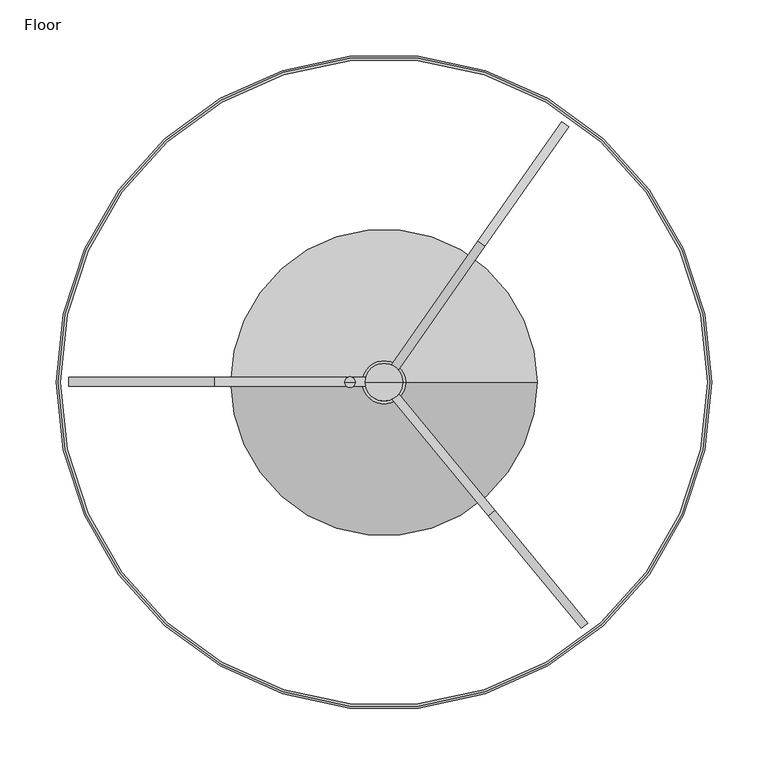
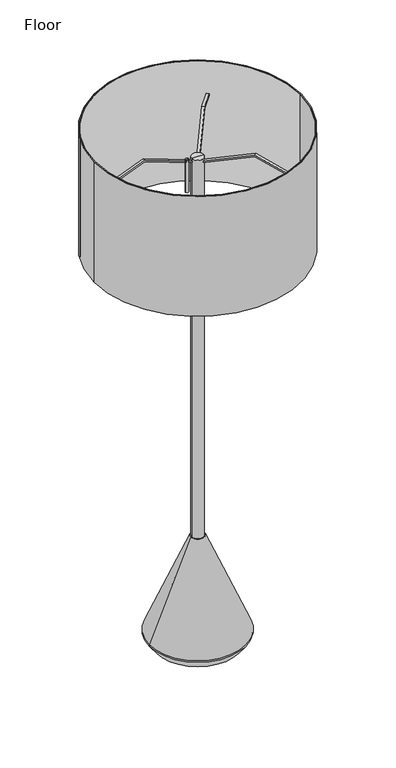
"""IFC4 building model written with IfcOpenShell, lengths in millimetres: furniture geometry, Blu Dot - Flask - Lamp : Floor."""

from ifc_helpers import new_model, si_unit, point, frame, frame_2d, origin, place, context, project, spatial, polyline, circle_curve, trimmed, segment, composite_curve, outline, extrude, source, transform, mapped, element, save
from ifc_brep_helpers import plane_surface, cylinder_surface, revolved_surface, advanced_brep


def floor_3f1f4aa1(model_context):
    return source(origin(), model_context, "Body", "SolidModel", [
        extrude(outline(composite_curve([segment(trimmed(circle_curve(frame_2d((0.0, 4.265619)), 289.227644), [point((-289.227644, 4.265619))], [point((289.227644, 4.265619))], False, "CARTESIAN"), True, "CONTINUOUS"), segment(trimmed(circle_curve(frame_2d((0.0, 4.265619)), 289.227644), [point((289.227644, 4.265619))], [point((-289.227644, 4.265619))], False, "CARTESIAN"), True, "CONTINUOUS")], self_intersect=False), holes=[composite_curve([segment(trimmed(circle_curve(frame_2d((0.0, 4.265619)), 287.195644), [point((-287.195644, 4.265619))], [point((287.195644, 4.265619))], True, "CARTESIAN"), True, "CONTINUOUS"), segment(trimmed(circle_curve(frame_2d((0.0, 4.265619)), 287.195644), [point((287.195644, 4.265619))], [point((-287.195644, 4.265619))], True, "CARTESIAN"), True, "CONTINUOUS")], self_intersect=False)]), frame((0.0, 0.0, 1165.2751899), z_axis=(0.0, 0.0, 1.0), x_axis=(1.0, 0.0, 0.0)), (0.0, 0.0, 1.0), 356.6928101),
        extrude(outline(composite_curve([segment(trimmed(circle_curve(frame_2d((0.0, 4.265619)), 291.005644), [point((-291.005644, 4.265619))], [point((291.005644, 4.265619))], False, "CARTESIAN"), True, "CONTINUOUS"), segment(trimmed(circle_curve(frame_2d((0.0, 4.265619)), 291.005644), [point((291.005644, 4.265619))], [point((-291.005644, 4.265619))], False, "CARTESIAN"), True, "CONTINUOUS")], self_intersect=False), holes=[composite_curve([segment(trimmed(circle_curve(frame_2d((0.0, 4.265619)), 288.973644), [point((-288.973644, 4.265619))], [point((288.973644, 4.265619))], True, "CARTESIAN"), True, "CONTINUOUS"), segment(trimmed(circle_curve(frame_2d((0.0, 4.265619)), 288.973644), [point((288.973644, 4.265619))], [point((-288.973644, 4.265619))], True, "CARTESIAN"), True, "CONTINUOUS")], self_intersect=False)]), frame((0.0, 0.0, 1165.2751899), z_axis=(0.0, 0.0, 1.0), x_axis=(1.0, 0.0, 0.0)), (0.0, 0.0, 1.0), 356.6928101),
        extrude(outline(polyline([(4.2228701, 0.0), (56.0255434, -129.6702766), (4.2228701, -267.8206325), (2e-07, -267.8206325), (51.8026735, -129.6702766), (0.0, 0.0), (4.2228701, 0.0)])), frame((175.0518404, -214.4038853, 1425.1938604), z_axis=(0.771210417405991, 0.6365803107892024, 0.0), x_axis=(0.0, 0.0, 1.0)), (0.0, 0.0, 1.0), 7.6009083),
        extrude(outline(polyline([(4.2228701, 0.0), (56.0255434, -129.6702766), (4.2228701, -267.8206325), (2e-07, -267.8206325), (51.8026735, -129.6702766), (0.0, 0.0), (4.2228701, 0.0)])), frame((163.997018, 231.3437487, 1425.1938604), z_axis=(-0.8193712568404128, 0.5732632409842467, 0.0), x_axis=(0.0, 0.0, 1.0)), (0.0, 0.0, 1.0), 7.6009083),
        extrude(outline(polyline([(1429.4167305, -280.0747546), (1425.1938604, -280.0747546), (1476.9965339, -150.4044778), (1425.1938606, -12.2541221), (1429.4167305, -12.2541221), (1481.2194038, -150.4044778), (1429.4167305, -280.0747546)])), frame((0.0, 0.8636089, 0.0), z_axis=(0.0, 1.0, 0.0), x_axis=(0.0, 0.0, 1.0)), (0.0, 0.0, 1.0), 7.6009083),
        advanced_brep(
        [(-30.1863644, 4.265619, 1440.2216316), (-25.5086239, 4.265619, 1440.2216316), (-34.8641048, 4.265619, 1440.2216316), (-34.8641048, 4.265619, 1344.1860879), (-25.5086239, 4.265619, 1344.1860879), (-30.1863644, 4.265619, 1344.1860879)],
        [
            (0, 1),
            (1, 2, circle_curve(frame((-30.1863644, 4.265619, 1440.2216316), z_axis=(0.0, 0.0, 1.0), x_axis=(1.0, 0.0, 0.0)), 4.6777405)),
            (2, 0),
            (2, 1, circle_curve(frame((-30.1863644, 4.265619, 1440.2216316), z_axis=(0.0, 0.0, 1.0), x_axis=(1.0, 0.0, 0.0)), 4.6777405)),
            (3, 4, circle_curve(frame((-30.1863644, 4.265619, 1344.1860879), z_axis=(0.0, 0.0, -1.0), x_axis=(1.0, 0.0, 0.0)), 4.6777405)),
            (4, 5),
            (5, 3),
            (4, 3, circle_curve(frame((-30.1863644, 4.265619, 1344.1860879), z_axis=(0.0, 0.0, -1.0), x_axis=(1.0, 0.0, 0.0)), 4.6777405)),
            (1, 4),
            (3, 2),
        ],
        [
            plane_surface(frame((-30.1863644, 4.265619, 1440.2216316), z_axis=(0.0, 0.0, 1.0), x_axis=(1.0, 0.0, 0.0))),
            plane_surface(frame((-30.1863644, 4.265619, 1344.1860879), z_axis=(0.0, 0.0, -1.0), x_axis=(1.0, 0.0, 0.0))),
            cylinder_surface(frame((-30.1863644, 4.265619, 1441.8728007), z_axis=(0.0, 0.0, 1.0), x_axis=(1.0, 0.0, 0.0)), 4.6777405),
        ],
        [
            (0, [[1, 2, 3]]),
            (0, [[-3, 4, -1]]),
            (1, [[5, 6, 7]]),
            (1, [[8, -7, -6]]),
            (2, [[-2, 9, -5, 10]]),
            (2, [[-4, -10, -8, -9]]),
        ],
    ),
        advanced_brep(
        [(0.0, 4.265619, 1437.5446296), (16.6864054, 4.265619, 1437.5446296), (-16.6864054, 4.265619, 1437.5446296), (-16.6864054, 4.265619, 312.0739937), (16.6864054, 4.265619, 312.0739937), (0.0, 4.265619, 312.0739937)],
        [
            (0, 1),
            (1, 2, circle_curve(frame((0.0, 4.265619, 1437.5446296), z_axis=(0.0, 0.0, 1.0), x_axis=(1.0, 0.0, 0.0)), 16.6864054)),
            (2, 0),
            (2, 1, circle_curve(frame((0.0, 4.265619, 1437.5446296), z_axis=(0.0, 0.0, 1.0), x_axis=(1.0, 0.0, 0.0)), 16.6864054)),
            (3, 4, circle_curve(frame((0.0, 4.265619, 312.0739937), z_axis=(0.0, 0.0, -1.0), x_axis=(1.0, 0.0, 0.0)), 16.6864054)),
            (4, 5),
            (5, 3),
            (4, 3, circle_curve(frame((0.0, 4.265619, 312.0739937), z_axis=(0.0, 0.0, -1.0), x_axis=(1.0, 0.0, 0.0)), 16.6864054)),
            (1, 4),
            (3, 2),
        ],
        [
            plane_surface(frame((0.0, 4.265619, 1437.5446296), z_axis=(0.0, 0.0, 1.0), x_axis=(1.0, 0.0, 0.0))),
            plane_surface(frame((0.0, 4.265619, 312.0739937), z_axis=(0.0, 0.0, -1.0), x_axis=(1.0, 0.0, 0.0))),
            cylinder_surface(frame((0.0, 4.265619, 1615.3446296), z_axis=(0.0, 0.0, 1.0), x_axis=(1.0, 0.0, 0.0)), 16.6864054),
        ],
        [
            (0, [[1, 2, 3]]),
            (0, [[-3, 4, -1]]),
            (1, [[5, 6, 7]]),
            (1, [[8, -7, -6]]),
            (2, [[-2, 9, -5, 10]]),
            (2, [[-4, -10, -8, -9]]),
        ],
    ),
        advanced_brep(
        [(-16.6864054, 4.265619, 312.0739937), (16.6864054, 4.265619, 312.0739937), (19.1151978, 4.265619, 312.0739937), (-19.1151978, 4.265619, 312.0739937), (-133.5252197, 4.265619, 31.4859796), (133.5252197, 4.265619, 31.4859796), (-132.9321582, 4.265619, 26.5661502), (132.9321582, 4.265619, 26.5661502), (-135.9540121, 4.265619, 31.4859796), (135.9540121, 4.265619, 31.4859796), (135.3609506, 4.265619, 26.5661502), (-135.3609506, 4.265619, 26.5661502), (-114.8743524, 4.265619, 2.032), (114.8743524, 4.265619, 2.032), (-115.8075373, 4.265619, 0.0), (115.8075373, 4.265619, 0.0), (0.0, 4.265619, 0.0), (0.0, 4.265619, 2.032)],
        [
            (0, 1, circle_curve(frame((0.0, 4.265619, 312.0739937), z_axis=(0.0, 0.0, -1.0), x_axis=(1.0, 0.0, 0.0)), 16.6864054)),
            (1, 2),
            (2, 3, circle_curve(frame((0.0, 4.265619, 312.0739937), z_axis=(0.0, 0.0, 1.0), x_axis=(1.0, 0.0, 0.0)), 19.1151978)),
            (3, 0),
            (1, 0, circle_curve(frame((0.0, 4.265619, 312.0739937), z_axis=(0.0, 0.0, -1.0), x_axis=(1.0, 0.0, 0.0)), 16.6864054)),
            (3, 2, circle_curve(frame((0.0, 4.265619, 312.0739937), z_axis=(0.0, 0.0, 1.0), x_axis=(1.0, 0.0, 0.0)), 19.1151978)),
            (4, 5, circle_curve(frame((0.0, 4.265619, 31.4859796), z_axis=(0.0, 0.0, -1.0), x_axis=(1.0, 0.0, 0.0)), 133.5252197)),
            (5, 1),
            (0, 4),
            (5, 4, circle_curve(frame((0.0, 4.265619, 31.4859796), z_axis=(0.0, 0.0, -1.0), x_axis=(1.0, 0.0, 0.0)), 133.5252197)),
            (6, 7, circle_curve(frame((0.0, 4.265619, 26.5661502), z_axis=(0.0, 0.0, -1.0), x_axis=(1.0, 0.0, 0.0)), 132.9321582)),
            (7, 5),
            (4, 6),
            (7, 6, circle_curve(frame((0.0, 4.265619, 26.5661502), z_axis=(0.0, 0.0, -1.0), x_axis=(1.0, 0.0, 0.0)), 132.9321582)),
            (8, 9, circle_curve(frame((0.0, 4.265619, 31.4859796), z_axis=(0.0, 0.0, -1.0), x_axis=(1.0, 0.0, 0.0)), 135.9540121)),
            (9, 10),
            (10, 11, circle_curve(frame((0.0, 4.265619, 26.5661502), z_axis=(0.0, 0.0, 1.0), x_axis=(1.0, 0.0, 0.0)), 135.3609506)),
            (11, 8),
            (9, 8, circle_curve(frame((0.0, 4.265619, 31.4859796), z_axis=(0.0, 0.0, -1.0), x_axis=(1.0, 0.0, 0.0)), 135.9540121)),
            (11, 10, circle_curve(frame((0.0, 4.265619, 26.5661502), z_axis=(0.0, 0.0, 1.0), x_axis=(1.0, 0.0, 0.0)), 135.3609506)),
            (2, 9),
            (8, 3),
            (12, 13, circle_curve(frame((0.0, 4.265619, 2.032), z_axis=(0.0, 0.0, -1.0), x_axis=(1.0, 0.0, 0.0)), 114.8743524)),
            (13, 7),
            (6, 12),
            (13, 12, circle_curve(frame((0.0, 4.265619, 2.032), z_axis=(0.0, 0.0, -1.0), x_axis=(1.0, 0.0, 0.0)), 114.8743524)),
            (14, 15, circle_curve(frame((0.0, 4.265619, 0.0), z_axis=(0.0, 0.0, -1.0), x_axis=(1.0, 0.0, 0.0)), 115.8075373)),
            (15, 16),
            (16, 14),
            (15, 14, circle_curve(frame((0.0, 4.265619, 0.0), z_axis=(0.0, 0.0, -1.0), x_axis=(1.0, 0.0, 0.0)), 115.8075373)),
            (10, 15),
            (14, 11),
            (17, 13),
            (12, 17),
        ],
        [
            plane_surface(frame((0.0, 4.265619, 312.0739937), z_axis=(0.0, 0.0, 1.0), x_axis=(1.0, 0.0, 0.0))),
            revolved_surface(polyline([(16.6864054, 4.265619, 312.0739937), (133.5252197, 4.265619, 31.4859796)]), (0.0, 4.265619, 369.2239937), (0.0, 0.0, 1.0)),
            revolved_surface(polyline([(133.5252197, 4.265619, 31.4859796), (132.9321582, 4.265619, 26.5661502)]), (0.0, 4.265619, 369.2239937), (0.0, 0.0, 1.0)),
            revolved_surface(polyline([(135.3609506, 4.265619, 26.5661502), (135.9540121, 4.265619, 31.4859796)]), (0.0, 4.265619, 369.2239937), (0.0, 0.0, 1.0)),
            revolved_surface(polyline([(135.9540121, 4.265619, 31.4859796), (19.1151978, 4.265619, 312.0739937)]), (0.0, 4.265619, 369.2239937), (0.0, 0.0, 1.0)),
            revolved_surface(polyline([(132.9321582, 4.265619, 26.5661502), (114.8743524, 4.265619, 2.032)]), (0.0, 4.265619, 369.2239937), (0.0, 0.0, 1.0)),
            plane_surface(frame((0.0, 4.265619, 0.0), z_axis=(0.0, 0.0, -1.0), x_axis=(1.0, 0.0, 0.0))),
            revolved_surface(polyline([(115.8075373, 4.265619, 0.0), (135.3609506, 4.265619, 26.5661502)]), (0.0, 4.265619, 369.2239937), (0.0, 0.0, 1.0)),
            plane_surface(frame((0.0, 4.265619, 2.032), z_axis=(0.0, 0.0, 1.0), x_axis=(1.0, 0.0, 0.0))),
        ],
        [
            (0, [[1, 2, 3, 4]]),
            (0, [[5, -4, 6, -2]]),
            (1, [[7, 8, -1, 9]]),
            (1, [[10, -9, -5, -8]]),
            (2, [[11, 12, -7, 13]]),
            (2, [[14, -13, -10, -12]]),
            (3, [[15, 16, 17, 18]]),
            (3, [[19, -18, 20, -16]]),
            (4, [[-3, 21, -15, 22]]),
            (4, [[-6, -22, -19, -21]]),
            (5, [[23, 24, -11, 25]]),
            (5, [[26, -25, -14, -24]]),
            (6, [[27, 28, 29]]),
            (6, [[30, -29, -28]]),
            (7, [[-17, 31, -27, 32]]),
            (7, [[-20, -32, -30, -31]]),
            (8, [[33, -23, 34]]),
            (8, [[-34, -26, -33]]),
        ],
    ),
    ])


if __name__ == "__main__":
    model = new_model("IFC4")
    model_context = context("Model", 3, world=origin())
    ifc_project = project(units=[si_unit("LENGTHUNIT", "METRE", prefix="MILLI")], contexts=[model_context])
    site = spatial("IfcSite", under=ifc_project)
    building = spatial("IfcBuilding", under=site)
    placement = place(None, origin())
    floor_shape = floor_3f1f4aa1(model_context)
    element("IfcFurniture", 1, ObjectType="Blu Dot - Flask - Lamp : Floor", at=placement, inside=building, context=model_context, shape_type="MappedRepresentation", body=[
        mapped(floor_shape, transform((0.0, 0.0, 0.0), x_axis=(1.0, 0.0, 0.0), y_axis=(0.0, 1.0, 0.0), z_axis=(0.0, 0.0, 1.0))),
    ])
    save(model, "model.ifc")
